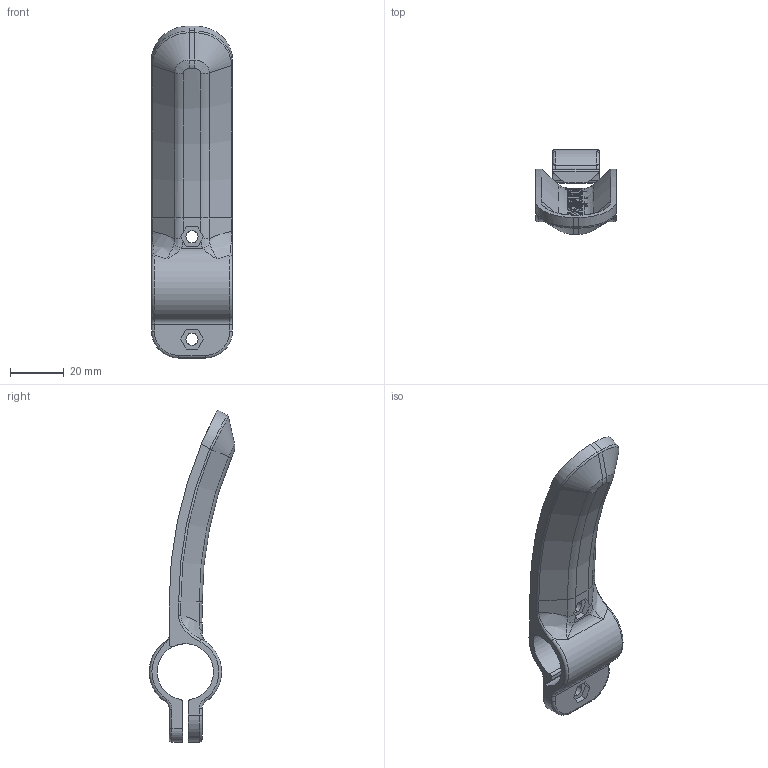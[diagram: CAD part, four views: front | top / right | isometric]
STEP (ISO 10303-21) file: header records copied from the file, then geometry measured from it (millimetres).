
FILE_DESCRIPTION (( 'STEP AP203' ), '1' );
FILE_NAME ('Doorhandle-Cylindrical-Narrow_V3.STEP', '2020-03-18T14:23:02', ( '' ), ( '' ), 'SwSTEP 2.0', 'SolidWorks 2019', '' );
FILE_SCHEMA (( 'CONFIG_CONTROL_DESIGN' ));
Length unit declared in the file: millimetre
Products named in the file (1): Doorhandle-Cylindrical-Narrow_V3
Bounding box: 30 x 31.7 x 122.96 mm (x, y, z)
Volume: 21624.4 mm3; surface area: 12664.6 mm2
Topology: 2 solids, 2 shells, 333 faces, 910 edges, 586 vertices
Faces by surface type: bspline 164, plane 75, cylinder 72, torus 18, cone 4
Entity records: 20585 total; most frequent: CARTESIAN_POINT 13441, ORIENTED_EDGE 1816, EDGE_CURVE 908, DIRECTION 905, VERTEX_POINT 586, B_SPLINE_CURVE_WITH_KNOTS 444, EDGE_LOOP 348, FACE_OUTER_BOUND 333
